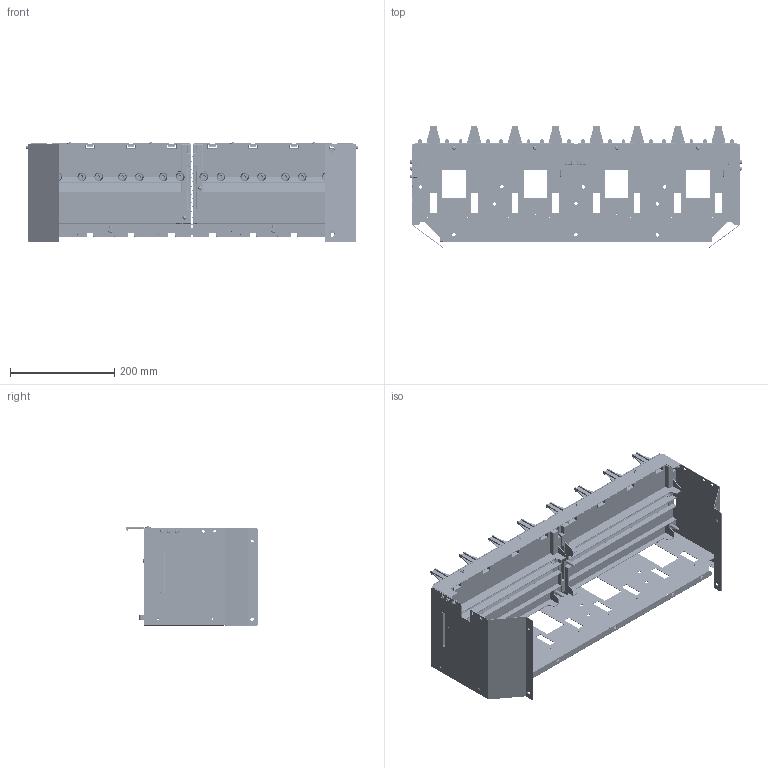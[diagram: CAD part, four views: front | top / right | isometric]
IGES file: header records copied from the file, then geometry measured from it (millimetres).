
Start section: ------------------------------------------------------------------------
Bounding box: 636.54 x 254.51 x 190.39 mm (x, y, z)
Surface area: 1080260.3 mm2 (no closed solid volume)
Topology: 0 solids, 0 shells, 3505 faces, 18928 edges, 18870 vertices
Faces by surface type: bspline 3505
